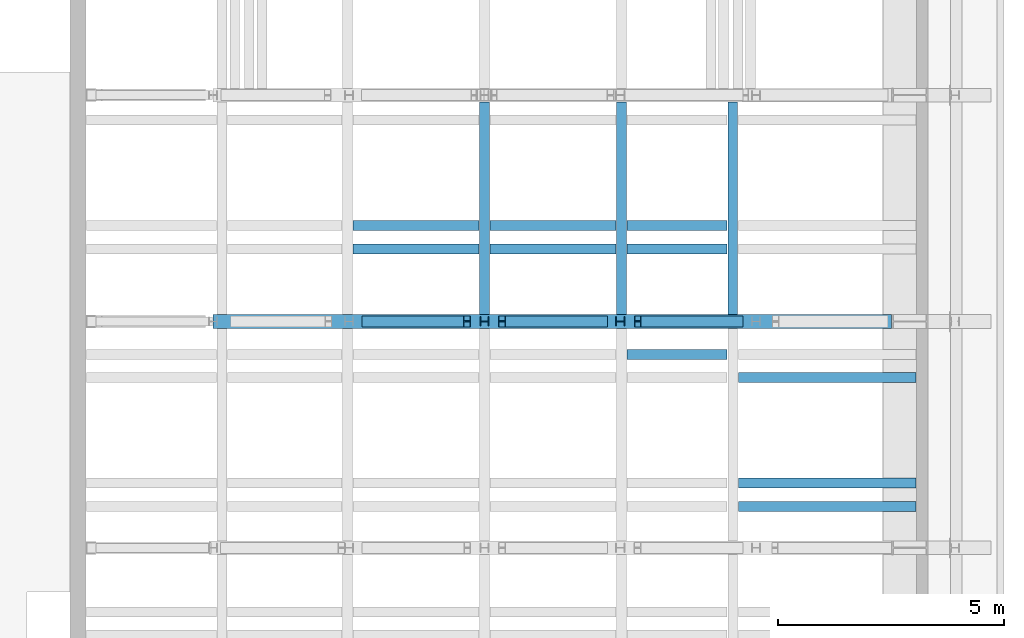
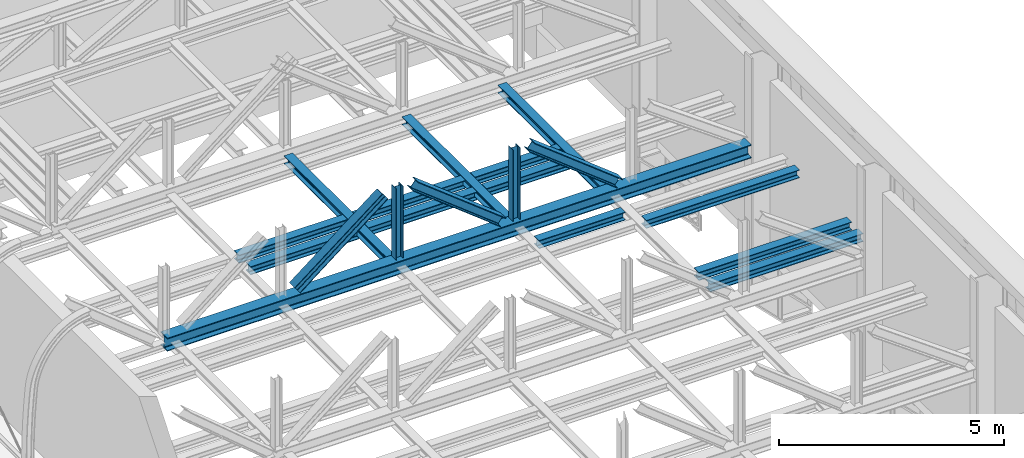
# One storey, part 19 of 29: 19 beams.
"""IFC2X3 building model written with IfcOpenShell, lengths in millimetres."""

from ifc_helpers import new_model, entity, si_unit, converted_unit, derived_unit, direction, frame, frame_2d, origin, place, context, subcontext, project, spatial, polyline, circle_curve, parameter, trimmed, segment, composite_curve, i_section, outline, extrude, material, type_object, element, save


model = new_model("IFC2X3")

# Units and contexts
model_context = context("Model", 3, precision=0.01, world=origin(), true_north=direction((6.12303176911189e-17, 1.0)))
body_context = subcontext(model_context, "Body", "Model", "MODEL_VIEW")
ifc_project = project(units=[si_unit("LENGTHUNIT", "METRE", prefix="MILLI"), si_unit("AREAUNIT", "SQUARE_METRE", prefix="MILLI"), si_unit("VOLUMEUNIT", "CUBIC_METRE"), converted_unit("PLANEANGLEUNIT", "DEGREE", entity("IfcRatioMeasure", 0.0174532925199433), si_unit("PLANEANGLEUNIT", "RADIAN"), dimensions=[0, 0, 0, 0, 0, 0, 0]), si_unit("MASSUNIT", "GRAM", prefix="KILO"), derived_unit("MASSDENSITYUNIT", [(si_unit("MASSUNIT", "GRAM", prefix="KILO"), 1), (si_unit("LENGTHUNIT", "METRE"), -3)]), derived_unit("MOMENTOFINERTIAUNIT", [(si_unit("LENGTHUNIT", "METRE"), 4)]), si_unit("TIMEUNIT", "SECOND"), si_unit("FREQUENCYUNIT", "HERTZ"), si_unit("THERMODYNAMICTEMPERATUREUNIT", "DEGREE_CELSIUS"), derived_unit("THERMALTRANSMITTANCEUNIT", [(si_unit("MASSUNIT", "GRAM", prefix="KILO"), 1), (si_unit("THERMODYNAMICTEMPERATUREUNIT", "KELVIN"), -1), (si_unit("TIMEUNIT", "SECOND"), -3)]), derived_unit("VOLUMETRICFLOWRATEUNIT", [(si_unit("LENGTHUNIT", "METRE"), 3), (si_unit("TIMEUNIT", "SECOND"), -1)]), si_unit("ELECTRICCURRENTUNIT", "AMPERE"), si_unit("ELECTRICVOLTAGEUNIT", "VOLT"), si_unit("POWERUNIT", "WATT"), si_unit("FORCEUNIT", "NEWTON", prefix="KILO"), si_unit("ILLUMINANCEUNIT", "LUX"), si_unit("LUMINOUSFLUXUNIT", "LUMEN"), si_unit("LUMINOUSINTENSITYUNIT", "CANDELA"), derived_unit("USERDEFINED", [(si_unit("MASSUNIT", "GRAM", prefix="KILO"), -1), (si_unit("LENGTHUNIT", "METRE"), -2), (si_unit("TIMEUNIT", "SECOND"), 3), (si_unit("LUMINOUSFLUXUNIT", "LUMEN"), 1)]), derived_unit("LINEARVELOCITYUNIT", [(si_unit("LENGTHUNIT", "METRE"), 1), (si_unit("TIMEUNIT", "SECOND"), -1)]), si_unit("PRESSUREUNIT", "PASCAL"), derived_unit("USERDEFINED", [(si_unit("LENGTHUNIT", "METRE"), -2), (si_unit("MASSUNIT", "GRAM", prefix="KILO"), 1), (si_unit("TIMEUNIT", "SECOND"), -2)]), derived_unit("LINEARFORCEUNIT", [(si_unit("MASSUNIT", "GRAM", prefix="KILO"), 1), (si_unit("LENGTHUNIT", "METRE"), 1), (si_unit("TIMEUNIT", "SECOND"), -2), (si_unit("LENGTHUNIT", "METRE"), -1)]), derived_unit("PLANARFORCEUNIT", [(si_unit("MASSUNIT", "GRAM", prefix="KILO"), 1), (si_unit("LENGTHUNIT", "METRE"), 1), (si_unit("TIMEUNIT", "SECOND"), -2), (si_unit("LENGTHUNIT", "METRE"), -2)])], contexts=[model_context])

# Site, building, storey
site_placement = place(None, origin())
site = spatial("IfcSite", under=ifc_project, at=site_placement, Name="Theater aan de Parade", CompositionType="ELEMENT")
building_placement = place(site_placement, origin())
building = spatial("IfcBuilding", under=site, at=building_placement, Name="Theater aan de Parade", CompositionType="ELEMENT")
storey_placement = place(building_placement, frame((0.0, 0.0, 20300.0)))
storey = spatial("IfcBuildingStorey", under=building, at=storey_placement, Name="05 vijfde verdieping", CompositionType="ELEMENT", Elevation=20300.0)

# Beams
ifc_material = material(Name="00_PBT_MAT_staal_S355")
beam_type_1 = type_object("IfcBeamType", Name="28_PBT_SF_staal_H-profiel:S355_HE220B", PredefinedType="NOTDEFINED")
beam_1_placement = place(storey_placement, frame((76509.4104367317, 39760.0, 0.0), z_axis=(0.0, 0.0, 1.0), x_axis=(0.0, -1.0, 0.0)))
element("IfcBeam", 1, at=beam_1_placement, inside=storey, type_object=beam_type_1, material=ifc_material, Name="28_PBT_SF_staal_H-profiel:S355_HE220B", ObjectType="28_PBT_SF_staal_H-profiel:S355_HE220B", context=body_context, shape_type="SweptSolid", body=[
    extrude(i_section(OverallWidth=220.000000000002, OverallDepth=220.000000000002, WebThickness=9.49999999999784, FlangeThickness=15.9999999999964, FilletRadius=17.9999999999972, at=frame_2d((-4.33431068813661e-12, -8.66862137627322e-12), x_axis=(0.0, 1.0))), frame((0.0, 0.0, 2360.0), z_axis=(1.0, 0.0, 0.0), x_axis=(0.0, 0.0, -1.0)), (0.0, 0.0, 1.0), 4700.00000000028),
])
beam_2_placement = place(storey_placement, frame((79535.461881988, 39760.0, 0.0), z_axis=(0.0, 0.0, 1.0), x_axis=(0.0, -1.0, 0.0)))
element("IfcBeam", 2, at=beam_2_placement, inside=storey, type_object=beam_type_1, material=ifc_material, Name="28_PBT_SF_staal_H-profiel:S355_HE220B", ObjectType="28_PBT_SF_staal_H-profiel:S355_HE220B", context=body_context, shape_type="SweptSolid", body=[
    extrude(i_section(OverallWidth=220.000000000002, OverallDepth=220.000000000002, WebThickness=9.49999999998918, FlangeThickness=15.9999999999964, FilletRadius=17.9999999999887, at=frame_2d((-4.33431068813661e-12, -8.66862137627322e-12), x_axis=(0.0, 1.0))), frame((0.0, 0.0, 2360.0), z_axis=(1.0, 0.0, 0.0), x_axis=(0.0, 0.0, -1.0)), (0.0, 0.0, 1.0), 4700.00000000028),
])
beam_3_placement = place(storey_placement, frame((81995.0, 39760.0, 0.0), z_axis=(0.0, 0.0, 1.0), x_axis=(0.0, -1.0, 0.0)))
element("IfcBeam", 3, at=beam_3_placement, inside=storey, type_object=beam_type_1, material=ifc_material, Name="28_PBT_SF_staal_H-profiel:S355_HE220B", ObjectType="28_PBT_SF_staal_H-profiel:S355_HE220B", context=body_context, shape_type="SweptSolid", body=[
    extrude(i_section(OverallWidth=220.000000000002, OverallDepth=220.000000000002, WebThickness=9.49999999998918, FlangeThickness=15.9999999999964, FilletRadius=17.9999999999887, at=frame_2d((-4.33431068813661e-12, -2.59916532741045e-11), x_axis=(0.0, 1.0))), frame((0.0, 0.0, 2360.0), z_axis=(1.0, 0.0, 0.0), x_axis=(0.0, 0.0, -1.0)), (0.0, 0.0, 1.0), 4700.00000000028),
])
beam_4_placement = place(storey_placement, frame((76509.4104367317, 37026.5, 0.0), z_axis=(0.0, 0.0, 1.0), x_axis=(-1.0, 0.0, 0.0)))
element("IfcBeam", 4, at=beam_4_placement, inside=storey, type_object=beam_type_1, material=ifc_material, Name="28_PBT_SF_staal_H-profiel:S355_HE220B", ObjectType="28_PBT_SF_staal_H-profiel:S355_HE220B", context=body_context, shape_type="SweptSolid", body=[
    extrude(outline(composite_curve([segment(polyline([(94.0, -110.0), (110.0, -110.0)]), True, "CONTINUOUS"), segment(polyline([(110.0, -110.0), (110.0, 110.0)]), True, "CONTINUOUS"), segment(polyline([(110.0, 110.0), (94.0, 110.0)]), True, "CONTINUOUS"), segment(polyline([(94.0, 110.0), (94.0, 22.7500000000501)]), True, "CONTINUOUS"), segment(trimmed(circle_curve(frame_2d((76.0, 22.7500000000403), x_axis=(1.0, 0.0)), 18.0000000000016), [parameter(270.0)], [parameter(0.0)], True, "PARAMETER"), False, "CONTINUOUS"), segment(polyline([(76.0, 4.75000000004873), (-76.0, 4.74999999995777)]), True, "CONTINUOUS"), segment(trimmed(circle_curve(frame_2d((-76.0, 22.749999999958), x_axis=(0.0, -1.0)), 18.0000000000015), [parameter(270.0)], [parameter(0.0)], True, "PARAMETER"), False, "CONTINUOUS"), segment(polyline([(-94.0, 22.7499999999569), (-94.0, 110.0)]), True, "CONTINUOUS"), segment(polyline([(-94.0, 110.0), (-110.0, 110.0)]), True, "CONTINUOUS"), segment(polyline([(-110.0, 110.0), (-110.0, -110.0)]), True, "CONTINUOUS"), segment(polyline([(-110.0, -110.0), (-94.0, -110.0)]), True, "CONTINUOUS"), segment(polyline([(-94.0, -110.0), (-94.0, -22.7500000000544)]), True, "CONTINUOUS"), segment(trimmed(circle_curve(frame_2d((-76.0, -22.7500000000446), x_axis=(-1.0, 0.0)), 17.9999999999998), [parameter(270.0)], [parameter(0.0)], True, "PARAMETER"), False, "CONTINUOUS"), segment(polyline([(-76.0, -4.75000000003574), (76.0, -4.7499999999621)]), True, "CONTINUOUS"), segment(trimmed(circle_curve(frame_2d((76.0, -22.7499999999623), x_axis=(0.0, 1.0)), 18.0000000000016), [parameter(270.0)], [parameter(0.0)], True, "PARAMETER"), False, "CONTINUOUS"), segment(polyline([(94.0, -22.7499999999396), (94.0, -110.0)]), True, "CONTINUOUS")], self_intersect=False)), frame((122.699999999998, 0.0, 2360.0), z_axis=(1.0, 0.0, 0.0), x_axis=(0.0, 0.0, -1.0)), (0.0, 0.0, 1.0), 2780.65144525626),
])
beam_5_placement = place(storey_placement, frame((79535.461881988, 37026.5, 0.0), z_axis=(0.0, 0.0, 1.0), x_axis=(-1.0, 0.0, 0.0)))
element("IfcBeam", 5, at=beam_5_placement, inside=storey, type_object=beam_type_1, material=ifc_material, Name="28_PBT_SF_staal_H-profiel:S355_HE220B", ObjectType="28_PBT_SF_staal_H-profiel:S355_HE220B", context=body_context, shape_type="SweptSolid", body=[
    extrude(outline(composite_curve([segment(polyline([(94.0, -110.0), (110.0, -110.0)]), True, "CONTINUOUS"), segment(polyline([(110.0, -110.0), (110.0, 110.0)]), True, "CONTINUOUS"), segment(polyline([(110.0, 110.0), (94.0, 110.0)]), True, "CONTINUOUS"), segment(polyline([(94.0, 110.0), (94.0, 22.7500000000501)]), True, "CONTINUOUS"), segment(trimmed(circle_curve(frame_2d((76.0, 22.7500000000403), x_axis=(1.0, 0.0)), 18.0000000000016), [parameter(270.0)], [parameter(0.0)], True, "PARAMETER"), False, "CONTINUOUS"), segment(polyline([(76.0, 4.75000000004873), (-76.0, 4.74999999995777)]), True, "CONTINUOUS"), segment(trimmed(circle_curve(frame_2d((-76.0, 22.749999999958), x_axis=(0.0, -1.0)), 18.0000000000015), [parameter(270.0)], [parameter(0.0)], True, "PARAMETER"), False, "CONTINUOUS"), segment(polyline([(-94.0, 22.7499999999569), (-94.0, 110.0)]), True, "CONTINUOUS"), segment(polyline([(-94.0, 110.0), (-110.0, 110.0)]), True, "CONTINUOUS"), segment(polyline([(-110.0, 110.0), (-110.0, -110.0)]), True, "CONTINUOUS"), segment(polyline([(-110.0, -110.0), (-94.0, -110.0)]), True, "CONTINUOUS"), segment(polyline([(-94.0, -110.0), (-94.0, -22.7500000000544)]), True, "CONTINUOUS"), segment(trimmed(circle_curve(frame_2d((-76.0, -22.7500000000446), x_axis=(-1.0, 0.0)), 17.9999999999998), [parameter(270.0)], [parameter(0.0)], True, "PARAMETER"), False, "CONTINUOUS"), segment(polyline([(-76.0, -4.75000000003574), (76.0, -4.7499999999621)]), True, "CONTINUOUS"), segment(trimmed(circle_curve(frame_2d((76.0, -22.7499999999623), x_axis=(0.0, 1.0)), 18.0000000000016), [parameter(270.0)], [parameter(0.0)], True, "PARAMETER"), False, "CONTINUOUS"), segment(polyline([(94.0, -22.7499999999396), (94.0, -110.0)]), True, "CONTINUOUS")], self_intersect=False)), frame((122.700000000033, 0.0, 2360.0), z_axis=(1.0, 0.0, 0.0), x_axis=(0.0, 0.0, -1.0)), (0.0, 0.0, 1.0), 2780.65144525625),
])
beam_6_placement = place(storey_placement, frame((81995.0, 37026.5, 0.0), z_axis=(0.0, 0.0, 1.0), x_axis=(-1.0, 0.0, 0.0)))
element("IfcBeam", 6, at=beam_6_placement, inside=storey, type_object=beam_type_1, material=ifc_material, Name="28_PBT_SF_staal_H-profiel:S355_HE220B", ObjectType="28_PBT_SF_staal_H-profiel:S355_HE220B", context=body_context, shape_type="SweptSolid", body=[
    extrude(outline(composite_curve([segment(polyline([(94.0, -110.0), (110.0, -110.0)]), True, "CONTINUOUS"), segment(polyline([(110.0, -110.0), (110.0, 110.0)]), True, "CONTINUOUS"), segment(polyline([(110.0, 110.0), (94.0, 110.0)]), True, "CONTINUOUS"), segment(polyline([(94.0, 110.0), (94.0, 22.7500000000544)]), True, "CONTINUOUS"), segment(trimmed(circle_curve(frame_2d((76.0, 22.7500000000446), x_axis=(1.0, 0.0)), 18.0000000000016), [parameter(270.0)], [parameter(0.0)], True, "PARAMETER"), False, "CONTINUOUS"), segment(polyline([(76.0, 4.75000000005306), (-76.0, 4.7499999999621)]), True, "CONTINUOUS"), segment(trimmed(circle_curve(frame_2d((-76.0, 22.7499999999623), x_axis=(0.0, -1.0)), 18.0000000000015), [parameter(270.0)], [parameter(0.0)], True, "PARAMETER"), False, "CONTINUOUS"), segment(polyline([(-94.0, 22.7499999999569), (-94.0, 110.0)]), True, "CONTINUOUS"), segment(polyline([(-94.0, 110.0), (-110.0, 110.0)]), True, "CONTINUOUS"), segment(polyline([(-110.0, 110.0), (-110.0, -110.0)]), True, "CONTINUOUS"), segment(polyline([(-110.0, -110.0), (-94.0, -110.0)]), True, "CONTINUOUS"), segment(polyline([(-94.0, -110.0), (-94.0, -22.7500000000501)]), True, "CONTINUOUS"), segment(trimmed(circle_curve(frame_2d((-76.0, -22.7500000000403), x_axis=(-1.0, 0.0)), 17.9999999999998), [parameter(270.0)], [parameter(0.0)], True, "PARAMETER"), False, "CONTINUOUS"), segment(polyline([(-76.0, -4.75000000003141), (76.0, -4.74999999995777)]), True, "CONTINUOUS"), segment(trimmed(circle_curve(frame_2d((76.0, -22.749999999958), x_axis=(0.0, 1.0)), 18.0000000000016), [parameter(270.0)], [parameter(0.0)], True, "PARAMETER"), False, "CONTINUOUS"), segment(polyline([(94.0, -22.7499999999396), (94.0, -110.0)]), True, "CONTINUOUS")], self_intersect=False)), frame((122.699999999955, 0.0, 2360.0), z_axis=(1.0, 0.0, 0.0), x_axis=(0.0, 0.0, -1.0)), (0.0, 0.0, 1.0), 2214.13811801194),
])
beam_7_placement = place(storey_placement, frame((76509.4104367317, 36512.4998, 0.0), z_axis=(0.0, 0.0, 1.0), x_axis=(-1.0, 0.0, 0.0)))
element("IfcBeam", 7, at=beam_7_placement, inside=storey, type_object=beam_type_1, material=ifc_material, Name="28_PBT_SF_staal_H-profiel:S355_HE220B", ObjectType="28_PBT_SF_staal_H-profiel:S355_HE220B", context=body_context, shape_type="SweptSolid", body=[
    extrude(outline(composite_curve([segment(polyline([(94.0, -110.0), (110.0, -110.0)]), True, "CONTINUOUS"), segment(polyline([(110.0, -110.0), (110.0, 110.0)]), True, "CONTINUOUS"), segment(polyline([(110.0, 110.0), (94.0, 110.0)]), True, "CONTINUOUS"), segment(polyline([(94.0, 110.0), (94.0, 22.7500000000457)]), True, "CONTINUOUS"), segment(trimmed(circle_curve(frame_2d((76.0, 22.750000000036), x_axis=(1.0, 0.0)), 18.0000000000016), [parameter(270.0)], [parameter(0.0)], True, "PARAMETER"), False, "CONTINUOUS"), segment(polyline([(76.0, 4.7500000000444), (-76.0, 4.74999999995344)]), True, "CONTINUOUS"), segment(trimmed(circle_curve(frame_2d((-76.0, 22.7499999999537), x_axis=(0.0, -1.0)), 18.0000000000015), [parameter(270.0)], [parameter(0.0)], True, "PARAMETER"), False, "CONTINUOUS"), segment(polyline([(-94.0, 22.7499999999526), (-94.0, 110.0)]), True, "CONTINUOUS"), segment(polyline([(-94.0, 110.0), (-110.0, 110.0)]), True, "CONTINUOUS"), segment(polyline([(-110.0, 110.0), (-110.0, -110.0)]), True, "CONTINUOUS"), segment(polyline([(-110.0, -110.0), (-94.0, -110.0)]), True, "CONTINUOUS"), segment(polyline([(-94.0, -110.0), (-94.0, -22.7500000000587)]), True, "CONTINUOUS"), segment(trimmed(circle_curve(frame_2d((-76.0, -22.750000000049), x_axis=(-1.0, 0.0)), 17.9999999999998), [parameter(270.0)], [parameter(0.0)], True, "PARAMETER"), False, "CONTINUOUS"), segment(polyline([(-76.0, -4.75000000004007), (76.0, -4.74999999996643)]), True, "CONTINUOUS"), segment(trimmed(circle_curve(frame_2d((76.0, -22.7499999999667), x_axis=(0.0, 1.0)), 18.0000000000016), [parameter(270.0)], [parameter(0.0)], True, "PARAMETER"), False, "CONTINUOUS"), segment(polyline([(94.0, -22.7499999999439), (94.0, -110.0)]), True, "CONTINUOUS")], self_intersect=False)), frame((122.699999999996, 0.0, 2360.0), z_axis=(1.0, 0.0, 0.0), x_axis=(0.0, 0.0, -1.0)), (0.0, 0.0, 1.0), 2780.65144525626),
])
beam_8_placement = place(storey_placement, frame((79535.461881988, 36512.4998, 0.0), z_axis=(0.0, 0.0, 1.0), x_axis=(-1.0, 0.0, 0.0)))
element("IfcBeam", 8, at=beam_8_placement, inside=storey, type_object=beam_type_1, material=ifc_material, Name="28_PBT_SF_staal_H-profiel:S355_HE220B", ObjectType="28_PBT_SF_staal_H-profiel:S355_HE220B", context=body_context, shape_type="SweptSolid", body=[
    extrude(outline(composite_curve([segment(polyline([(94.0, -110.0), (110.0, -110.0)]), True, "CONTINUOUS"), segment(polyline([(110.0, -110.0), (110.0, 110.0)]), True, "CONTINUOUS"), segment(polyline([(110.0, 110.0), (94.0, 110.0)]), True, "CONTINUOUS"), segment(polyline([(94.0, 110.0), (94.0, 22.7500000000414)]), True, "CONTINUOUS"), segment(trimmed(circle_curve(frame_2d((76.0, 22.7500000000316), x_axis=(1.0, 0.0)), 18.0000000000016), [parameter(270.0)], [parameter(0.0)], True, "PARAMETER"), False, "CONTINUOUS"), segment(polyline([(76.0, 4.75000000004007), (-76.0, 4.74999999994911)]), True, "CONTINUOUS"), segment(trimmed(circle_curve(frame_2d((-76.0, 22.7499999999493), x_axis=(0.0, -1.0)), 18.0000000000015), [parameter(270.0)], [parameter(0.0)], True, "PARAMETER"), False, "CONTINUOUS"), segment(polyline([(-94.0, 22.7499999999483), (-94.0, 110.0)]), True, "CONTINUOUS"), segment(polyline([(-94.0, 110.0), (-110.0, 110.0)]), True, "CONTINUOUS"), segment(polyline([(-110.0, 110.0), (-110.0, -110.0)]), True, "CONTINUOUS"), segment(polyline([(-110.0, -110.0), (-94.0, -110.0)]), True, "CONTINUOUS"), segment(polyline([(-94.0, -110.0), (-94.0, -22.7500000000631)]), True, "CONTINUOUS"), segment(trimmed(circle_curve(frame_2d((-76.0, -22.7500000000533), x_axis=(-1.0, 0.0)), 17.9999999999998), [parameter(270.0)], [parameter(0.0)], True, "PARAMETER"), False, "CONTINUOUS"), segment(polyline([(-76.0, -4.7500000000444), (76.0, -4.74999999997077)]), True, "CONTINUOUS"), segment(trimmed(circle_curve(frame_2d((76.0, -22.749999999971), x_axis=(0.0, 1.0)), 18.0000000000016), [parameter(270.0)], [parameter(0.0)], True, "PARAMETER"), False, "CONTINUOUS"), segment(polyline([(94.0, -22.7499999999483), (94.0, -110.0)]), True, "CONTINUOUS")], self_intersect=False)), frame((122.700000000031, 0.0, 2360.0), z_axis=(1.0, 0.0, 0.0), x_axis=(0.0, 0.0, -1.0)), (0.0, 0.0, 1.0), 2780.65144525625),
])
beam_9_placement = place(storey_placement, frame((81995.0, 36512.4998, 0.0), z_axis=(0.0, 0.0, 1.0), x_axis=(-1.0, 0.0, 0.0)))
element("IfcBeam", 9, at=beam_9_placement, inside=storey, type_object=beam_type_1, material=ifc_material, Name="28_PBT_SF_staal_H-profiel:S355_HE220B", ObjectType="28_PBT_SF_staal_H-profiel:S355_HE220B", context=body_context, shape_type="SweptSolid", body=[
    extrude(outline(composite_curve([segment(polyline([(94.0, -110.0), (110.0, -110.0)]), True, "CONTINUOUS"), segment(polyline([(110.0, -110.0), (110.0, 110.0)]), True, "CONTINUOUS"), segment(polyline([(110.0, 110.0), (94.0, 110.0)]), True, "CONTINUOUS"), segment(polyline([(94.0, 110.0), (94.0, 22.7500000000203)]), True, "CONTINUOUS"), segment(trimmed(circle_curve(frame_2d((76.0, 22.7500000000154), x_axis=(1.0, 0.0)), 18.0000000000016), [parameter(270.0)], [parameter(0.0)], True, "PARAMETER"), False, "CONTINUOUS"), segment(polyline([(76.0, 4.75000000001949), (-76.0, 4.74999999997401)]), True, "CONTINUOUS"), segment(trimmed(circle_curve(frame_2d((-76.0, 22.7499999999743), x_axis=(0.0, -1.0)), 18.0000000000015), [parameter(270.0)], [parameter(0.0)], True, "PARAMETER"), False, "CONTINUOUS"), segment(polyline([(-94.0, 22.7499999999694), (-94.0, 110.0)]), True, "CONTINUOUS"), segment(polyline([(-94.0, 110.0), (-110.0, 110.0)]), True, "CONTINUOUS"), segment(polyline([(-110.0, 110.0), (-110.0, -110.0)]), True, "CONTINUOUS"), segment(polyline([(-110.0, -110.0), (-94.0, -110.0)]), True, "CONTINUOUS"), segment(polyline([(-94.0, -110.0), (-94.0, -22.7500000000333)]), True, "CONTINUOUS"), segment(trimmed(circle_curve(frame_2d((-76.0, -22.7500000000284), x_axis=(-1.0, 0.0)), 17.9999999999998), [parameter(270.0)], [parameter(0.0)], True, "PARAMETER"), False, "CONTINUOUS"), segment(polyline([(-76.0, -4.75000000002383), (76.0, -4.74999999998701)]), True, "CONTINUOUS"), segment(trimmed(circle_curve(frame_2d((76.0, -22.7499999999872), x_axis=(0.0, 1.0)), 18.0000000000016), [parameter(270.0)], [parameter(0.0)], True, "PARAMETER"), False, "CONTINUOUS"), segment(polyline([(94.0, -22.749999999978), (94.0, -110.0)]), True, "CONTINUOUS")], self_intersect=False)), frame((122.699999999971, 0.0, 2360.0), z_axis=(1.0, 0.0, 0.0), x_axis=(0.0, 0.0, -1.0)), (0.0, 0.0, 1.0), 2214.13811801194),
])
beam_10_placement = place(storey_placement, frame((81995.0, 34183.5, 0.0), z_axis=(0.0, 0.0, 1.0), x_axis=(-1.0, 0.0, 0.0)))
element("IfcBeam", 10, at=beam_10_placement, inside=storey, type_object=beam_type_1, material=ifc_material, Name="28_PBT_SF_staal_H-profiel:S355_HE220B", ObjectType="28_PBT_SF_staal_H-profiel:S355_HE220B", context=body_context, shape_type="SweptSolid", body=[
    extrude(outline(composite_curve([segment(polyline([(94.0, -110.0), (110.0, -110.0)]), True, "CONTINUOUS"), segment(polyline([(110.0, -110.0), (110.0, 110.0)]), True, "CONTINUOUS"), segment(polyline([(110.0, 110.0), (94.0, 110.0)]), True, "CONTINUOUS"), segment(polyline([(94.0, 110.0), (94.0, 22.7500000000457)]), True, "CONTINUOUS"), segment(trimmed(circle_curve(frame_2d((76.0, 22.750000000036), x_axis=(1.0, 0.0)), 18.0000000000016), [parameter(270.0)], [parameter(0.0)], True, "PARAMETER"), False, "CONTINUOUS"), segment(polyline([(76.0, 4.7500000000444), (-76.0, 4.74999999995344)]), True, "CONTINUOUS"), segment(trimmed(circle_curve(frame_2d((-76.0, 22.7499999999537), x_axis=(0.0, -1.0)), 18.0000000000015), [parameter(270.0)], [parameter(0.0)], True, "PARAMETER"), False, "CONTINUOUS"), segment(polyline([(-94.0, 22.7499999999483), (-94.0, 110.0)]), True, "CONTINUOUS"), segment(polyline([(-94.0, 110.0), (-110.0, 110.0)]), True, "CONTINUOUS"), segment(polyline([(-110.0, 110.0), (-110.0, -110.0)]), True, "CONTINUOUS"), segment(polyline([(-110.0, -110.0), (-94.0, -110.0)]), True, "CONTINUOUS"), segment(polyline([(-94.0, -110.0), (-94.0, -22.7500000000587)]), True, "CONTINUOUS"), segment(trimmed(circle_curve(frame_2d((-76.0, -22.750000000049), x_axis=(-1.0, 0.0)), 17.9999999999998), [parameter(270.0)], [parameter(0.0)], True, "PARAMETER"), False, "CONTINUOUS"), segment(polyline([(-76.0, -4.75000000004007), (76.0, -4.74999999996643)]), True, "CONTINUOUS"), segment(trimmed(circle_curve(frame_2d((76.0, -22.7499999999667), x_axis=(0.0, 1.0)), 18.0000000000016), [parameter(270.0)], [parameter(0.0)], True, "PARAMETER"), False, "CONTINUOUS"), segment(polyline([(94.0, -22.7499999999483), (94.0, -110.0)]), True, "CONTINUOUS")], self_intersect=False)), frame((122.699999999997, 0.0, 2360.0), z_axis=(1.0, 0.0, 0.0), x_axis=(0.0, 0.0, -1.0)), (0.0, 0.0, 1.0), 2214.13811801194),
])
beam_11_placement = place(storey_placement, frame((86180.0, 33669.4998, 0.0), z_axis=(0.0, 0.0, 1.0), x_axis=(-1.0, 0.0, 0.0)))
element("IfcBeam", 11, at=beam_11_placement, inside=storey, type_object=beam_type_1, material=ifc_material, Name="28_PBT_SF_staal_H-profiel:S355_HE220B", ObjectType="28_PBT_SF_staal_H-profiel:S355_HE220B", context=body_context, shape_type="SweptSolid", body=[
    extrude(outline(composite_curve([segment(polyline([(94.0, -110.0), (110.0, -110.0)]), True, "CONTINUOUS"), segment(polyline([(110.0, -110.0), (110.0, 110.0)]), True, "CONTINUOUS"), segment(polyline([(110.0, 110.0), (94.0, 110.0)]), True, "CONTINUOUS"), segment(polyline([(94.0, 110.0), (94.0, 22.7500000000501)]), True, "CONTINUOUS"), segment(trimmed(circle_curve(frame_2d((76.0, 22.7500000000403), x_axis=(1.0, 0.0)), 18.0000000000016), [parameter(270.0)], [parameter(0.0)], True, "PARAMETER"), False, "CONTINUOUS"), segment(polyline([(76.0, 4.75000000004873), (-76.0, 4.74999999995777)]), True, "CONTINUOUS"), segment(trimmed(circle_curve(frame_2d((-76.0, 22.749999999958), x_axis=(0.0, -1.0)), 18.0000000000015), [parameter(270.0)], [parameter(0.0)], True, "PARAMETER"), False, "CONTINUOUS"), segment(polyline([(-94.0, 22.7499999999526), (-94.0, 110.0)]), True, "CONTINUOUS"), segment(polyline([(-94.0, 110.0), (-110.0, 110.0)]), True, "CONTINUOUS"), segment(polyline([(-110.0, 110.0), (-110.0, -110.0)]), True, "CONTINUOUS"), segment(polyline([(-110.0, -110.0), (-94.0, -110.0)]), True, "CONTINUOUS"), segment(polyline([(-94.0, -110.0), (-94.0, -22.7500000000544)]), True, "CONTINUOUS"), segment(trimmed(circle_curve(frame_2d((-76.0, -22.7500000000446), x_axis=(-1.0, 0.0)), 17.9999999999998), [parameter(270.0)], [parameter(0.0)], True, "PARAMETER"), False, "CONTINUOUS"), segment(polyline([(-76.0, -4.75000000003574), (76.0, -4.7499999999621)]), True, "CONTINUOUS"), segment(trimmed(circle_curve(frame_2d((76.0, -22.7499999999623), x_axis=(0.0, 1.0)), 18.0000000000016), [parameter(270.0)], [parameter(0.0)], True, "PARAMETER"), False, "CONTINUOUS"), segment(polyline([(94.0, -22.7499999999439), (94.0, -110.0)]), True, "CONTINUOUS")], self_intersect=False)), frame((137.69999999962, 0.0, 2360.0), z_axis=(1.0, 0.0, 0.0), x_axis=(0.0, 0.0, -1.0)), (0.0, 0.0, 1.0), 3924.60000000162),
])
beam_12_placement = place(storey_placement, frame((86180.0, 31340.5, 0.0), z_axis=(0.0, 0.0, 1.0), x_axis=(-1.0, 0.0, 0.0)))
element("IfcBeam", 12, at=beam_12_placement, inside=storey, type_object=beam_type_1, material=ifc_material, Name="28_PBT_SF_staal_H-profiel:S355_HE220B", ObjectType="28_PBT_SF_staal_H-profiel:S355_HE220B", context=body_context, shape_type="SweptSolid", body=[
    extrude(outline(composite_curve([segment(polyline([(94.0, -110.0), (110.0, -110.0)]), True, "CONTINUOUS"), segment(polyline([(110.0, -110.0), (110.0, 110.0)]), True, "CONTINUOUS"), segment(polyline([(110.0, 110.0), (94.0, 110.0)]), True, "CONTINUOUS"), segment(polyline([(94.0, 110.0), (94.0, 22.7500000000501)]), True, "CONTINUOUS"), segment(trimmed(circle_curve(frame_2d((76.0, 22.7500000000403), x_axis=(1.0, 0.0)), 18.0000000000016), [parameter(270.0)], [parameter(0.0)], True, "PARAMETER"), False, "CONTINUOUS"), segment(polyline([(76.0, 4.75000000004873), (-76.0, 4.74999999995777)]), True, "CONTINUOUS"), segment(trimmed(circle_curve(frame_2d((-76.0, 22.749999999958), x_axis=(0.0, -1.0)), 18.0000000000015), [parameter(270.0)], [parameter(0.0)], True, "PARAMETER"), False, "CONTINUOUS"), segment(polyline([(-94.0, 22.7499999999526), (-94.0, 110.0)]), True, "CONTINUOUS"), segment(polyline([(-94.0, 110.0), (-110.0, 110.0)]), True, "CONTINUOUS"), segment(polyline([(-110.0, 110.0), (-110.0, -110.0)]), True, "CONTINUOUS"), segment(polyline([(-110.0, -110.0), (-94.0, -110.0)]), True, "CONTINUOUS"), segment(polyline([(-94.0, -110.0), (-94.0, -22.7500000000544)]), True, "CONTINUOUS"), segment(trimmed(circle_curve(frame_2d((-76.0, -22.7500000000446), x_axis=(-1.0, 0.0)), 17.9999999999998), [parameter(270.0)], [parameter(0.0)], True, "PARAMETER"), False, "CONTINUOUS"), segment(polyline([(-76.0, -4.75000000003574), (76.0, -4.7499999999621)]), True, "CONTINUOUS"), segment(trimmed(circle_curve(frame_2d((76.0, -22.7499999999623), x_axis=(0.0, 1.0)), 18.0000000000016), [parameter(270.0)], [parameter(0.0)], True, "PARAMETER"), False, "CONTINUOUS"), segment(polyline([(94.0, -22.7499999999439), (94.0, -110.0)]), True, "CONTINUOUS")], self_intersect=False)), frame((137.699999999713, 0.0, 2360.0), z_axis=(1.0, 0.0, 0.0), x_axis=(0.0, 0.0, -1.0)), (0.0, 0.0, 1.0), 3924.60000000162),
])
beam_13_placement = place(storey_placement, frame((86180.0, 30826.4998, 0.0), z_axis=(0.0, 0.0, 1.0), x_axis=(-1.0, 0.0, 0.0)))
element("IfcBeam", 13, at=beam_13_placement, inside=storey, type_object=beam_type_1, material=ifc_material, Name="28_PBT_SF_staal_H-profiel:S355_HE220B", ObjectType="28_PBT_SF_staal_H-profiel:S355_HE220B", context=body_context, shape_type="SweptSolid", body=[
    extrude(outline(composite_curve([segment(polyline([(94.0, -110.0), (110.0, -110.0)]), True, "CONTINUOUS"), segment(polyline([(110.0, -110.0), (110.0, 110.0)]), True, "CONTINUOUS"), segment(polyline([(110.0, 110.0), (94.0, 110.0)]), True, "CONTINUOUS"), segment(polyline([(94.0, 110.0), (94.0, 22.7500000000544)]), True, "CONTINUOUS"), segment(trimmed(circle_curve(frame_2d((76.0, 22.7500000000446), x_axis=(1.0, 0.0)), 18.0000000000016), [parameter(270.0)], [parameter(0.0)], True, "PARAMETER"), False, "CONTINUOUS"), segment(polyline([(76.0, 4.75000000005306), (-76.0, 4.7499999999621)]), True, "CONTINUOUS"), segment(trimmed(circle_curve(frame_2d((-76.0, 22.7499999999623), x_axis=(0.0, -1.0)), 18.0000000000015), [parameter(270.0)], [parameter(0.0)], True, "PARAMETER"), False, "CONTINUOUS"), segment(polyline([(-94.0, 22.7499999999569), (-94.0, 110.0)]), True, "CONTINUOUS"), segment(polyline([(-94.0, 110.0), (-110.0, 110.0)]), True, "CONTINUOUS"), segment(polyline([(-110.0, 110.0), (-110.0, -110.0)]), True, "CONTINUOUS"), segment(polyline([(-110.0, -110.0), (-94.0, -110.0)]), True, "CONTINUOUS"), segment(polyline([(-94.0, -110.0), (-94.0, -22.7500000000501)]), True, "CONTINUOUS"), segment(trimmed(circle_curve(frame_2d((-76.0, -22.7500000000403), x_axis=(-1.0, 0.0)), 17.9999999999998), [parameter(270.0)], [parameter(0.0)], True, "PARAMETER"), False, "CONTINUOUS"), segment(polyline([(-76.0, -4.75000000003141), (76.0, -4.74999999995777)]), True, "CONTINUOUS"), segment(trimmed(circle_curve(frame_2d((76.0, -22.749999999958), x_axis=(0.0, 1.0)), 18.0000000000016), [parameter(270.0)], [parameter(0.0)], True, "PARAMETER"), False, "CONTINUOUS"), segment(polyline([(94.0, -22.7499999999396), (94.0, -110.0)]), True, "CONTINUOUS")], self_intersect=False)), frame((137.699999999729, 0.0, 2360.0), z_axis=(1.0, 0.0, 0.0), x_axis=(0.0, 0.0, -1.0)), (0.0, 0.0, 1.0), 3924.60000000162),
])
beam_type_2 = type_object("IfcBeamType", Name="28_PBT_SF_staal_H-profiel:S355_HE200A", PredefinedType="NOTDEFINED")
beam_14_placement = place(storey_placement, frame((76512.2823862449, 34910.0, 2430.0), z_axis=(1.0, 0.0, 0.0), x_axis=(0.0, 0.0, 1.0)))
element("IfcBeam", 14, at=beam_14_placement, inside=storey, type_object=beam_type_2, material=ifc_material, Name="28_PBT_SF_staal_H-profiel:S355_HE200A", ObjectType="28_PBT_SF_staal_H-profiel:S355_HE200A", context=body_context, shape_type="SweptSolid", body=[
    extrude(i_section(OverallWidth=199.999999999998, OverallDepth=190.0, WebThickness=6.50000000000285, FlangeThickness=9.99999999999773, FilletRadius=17.9999999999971, at=frame_2d((1.29958266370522e-11, -2.16715534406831e-12), x_axis=(0.0, 1.0))), frame((192.7, 0.0, 0.0), z_axis=(1.0, 0.0, 0.0), x_axis=(0.0, 0.0, -1.0)), (0.0, 0.0, 1.0), 1942.6),
])
beam_15_placement = place(storey_placement, frame((79509.7098483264, 34910.0, 2430.0), z_axis=(1.0, 0.0, 0.0), x_axis=(0.0, 0.0, 1.0)))
element("IfcBeam", 15, at=beam_15_placement, inside=storey, type_object=beam_type_2, material=ifc_material, Name="28_PBT_SF_staal_H-profiel:S355_HE200A", ObjectType="28_PBT_SF_staal_H-profiel:S355_HE200A", context=body_context, shape_type="SweptSolid", body=[
    extrude(i_section(OverallWidth=199.999999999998, OverallDepth=189.999999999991, WebThickness=6.50000000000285, FlangeThickness=9.99999999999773, FilletRadius=17.9999999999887, at=frame_2d((1.73301373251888e-11, -2.16715534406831e-12), x_axis=(0.0, 1.0))), frame((192.7, 0.0, 0.0), z_axis=(1.0, 0.0, 0.0), x_axis=(0.0, 0.0, -1.0)), (0.0, 0.0, 1.0), 1942.6),
])
beam_type_3 = type_object("IfcBeamType", Name="28_PBT_SF_staal_H-profiel:S355_HE240B", PredefinedType="NOTDEFINED")
beam_16_placement = place(storey_placement, frame((79290.57720509, 34910.0, 4950.0), z_axis=(0.616716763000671, 0.0, 0.787185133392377), x_axis=(0.787185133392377, 0.0, -0.616716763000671)))
element("IfcBeam", 16, at=beam_16_placement, inside=storey, type_object=beam_type_3, material=ifc_material, Name="28_PBT_SF_staal_H-profiel:S355_HE240B", ObjectType="28_PBT_SF_staal_H-profiel:S355_HE240B", context=body_context, shape_type="SweptSolid", body=[
    extrude(i_section(OverallWidth=240.000000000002, OverallDepth=240.000000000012, WebThickness=10.0000000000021, FlangeThickness=16.9999999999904, FilletRadius=20.9999999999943, at=frame_2d((-5.11590769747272e-12, -2.16715534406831e-12), x_axis=(0.0, 1.0))), frame((769.063770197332, 0.0, 0.0), z_axis=(1.0, 0.0, 0.0), x_axis=(0.0, 0.0, -1.0)), (0.0, 0.0, 1.0), 2859.35305799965),
])
beam_17_placement = place(storey_placement, frame((76293.1497430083, 34910.0, 4950.0), z_axis=(0.616716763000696, 0.0, 0.787185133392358), x_axis=(0.787185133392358, 0.0, -0.616716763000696)))
element("IfcBeam", 17, at=beam_17_placement, inside=storey, type_object=beam_type_3, material=ifc_material, Name="28_PBT_SF_staal_H-profiel:S355_HE240B", ObjectType="28_PBT_SF_staal_H-profiel:S355_HE240B", context=body_context, shape_type="SweptSolid", body=[
    extrude(i_section(OverallWidth=240.000000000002, OverallDepth=240.000000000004, WebThickness=10.0000000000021, FlangeThickness=17.0000000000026, FilletRadius=21.0000000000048, at=frame_2d((-3.40349970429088e-12, 2.16715534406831e-12), x_axis=(0.0, 1.0))), frame((769.063770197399, 0.0, 0.0), z_axis=(1.0, 0.0, 0.0), x_axis=(0.0, 0.0, -1.0)), (0.0, 0.0, 1.0), 2859.35305799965),
])
beam_18_placement = place(storey_placement, frame((73514.8549241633, 34910.0, 2430.0), z_axis=(-0.616716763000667, 0.0, 0.78718513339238), x_axis=(0.78718513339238, 0.0, 0.616716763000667)))
element("IfcBeam", 18, at=beam_18_placement, inside=storey, type_object=beam_type_3, material=ifc_material, Name="28_PBT_SF_staal_H-profiel:S355_HE240B", ObjectType="28_PBT_SF_staal_H-profiel:S355_HE240B", context=body_context, shape_type="SweptSolid", body=[
    extrude(i_section(OverallWidth=240.000000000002, OverallDepth=240.000000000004, WebThickness=10.0000000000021, FlangeThickness=17.0000000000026, FilletRadius=21.0000000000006, at=frame_2d((-7.7804429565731e-12, 2.16715534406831e-12), x_axis=(0.0, 1.0))), frame((457.737710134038, 0.0, 0.0), z_axis=(1.0, 0.0, 0.0), x_axis=(0.0, 0.0, -1.0)), (0.0, 0.0, 1.0), 2859.35305799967),
])
beam_type_4 = type_object("IfcBeamType", Name="28_PBT_SF_staal_H-profiel:S355_HE360B", PredefinedType="NOTDEFINED")
beam_19_placement = place(storey_placement, frame((70517.4274620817, 34910.0, 2430.0)))
element("IfcBeam", 19, at=beam_19_placement, inside=storey, type_object=beam_type_4, material=ifc_material, Name="28_PBT_SF_staal_H-profiel:S355_HE360B", ObjectType="28_PBT_SF_staal_H-profiel:S355_HE360B", context=body_context, shape_type="SweptSolid", body=[
    extrude(i_section(OverallWidth=300.000000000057, OverallDepth=360.0, WebThickness=12.4999999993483, FlangeThickness=22.4999999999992, FilletRadius=26.9999999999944, at=frame_2d((2.17426077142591e-12, 2.17426077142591e-12), x_axis=(0.0, 1.0))), frame((0.0, 0.0, 0.0), z_axis=(1.0, 0.0, 0.0), x_axis=(0.0, 0.0, -1.0)), (0.0, 0.0, 1.0), 14987.1373104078),
])

save(model, "model.ifc")
